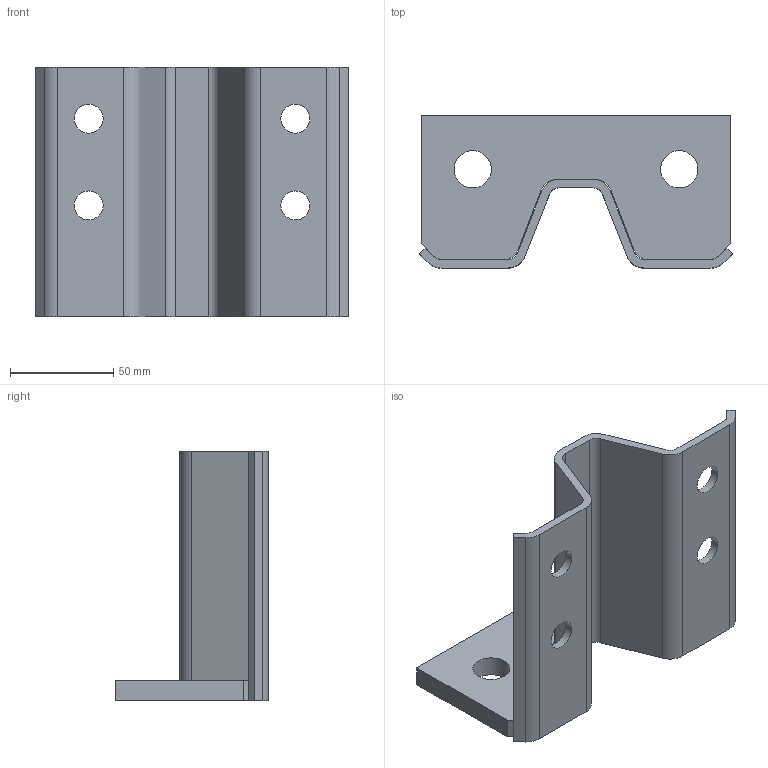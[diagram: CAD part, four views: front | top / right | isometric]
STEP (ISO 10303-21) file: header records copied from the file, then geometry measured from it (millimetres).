
FILE_DESCRIPTION(/* description */ (''),/* implementation_level */ '2;1');
FILE_NAME(/* name */ 'ZB140W100.stp',/* time_stamp */ '2023-07-03T11:24:50+02:00',/* author */ ('woriedl'),/* organization */ (''),/* preprocessor_version */ 'ST-DEVELOPER v19.2',/* originating_system */ 'AutoCAD Mechanical',/* authorisation */ '');
FILE_SCHEMA (('AUTOMOTIVE_DESIGN { 1 0 10303 214 3 1 1 }'));
Length unit declared in the file: centimetre
Products named in the file (1): Product
Bounding box: 151.72 x 74 x 121 mm (x, y, z)
Volume: 176913 mm3; surface area: 73146.6 mm2
Topology: 2 solids, 2 shells, 54 faces, 150 edges, 100 vertices
Faces by surface type: plane 30, cylinder 24
Full cylindrical faces by diameter (mm): 14 x4, 18 x2
Entity records: 1788 total; most frequent: DIRECTION 308, CARTESIAN_POINT 305, ORIENTED_EDGE 300, EDGE_CURVE 150, AXIS2_PLACEMENT_3D 103, LINE 102, VECTOR 102, VERTEX_POINT 100
